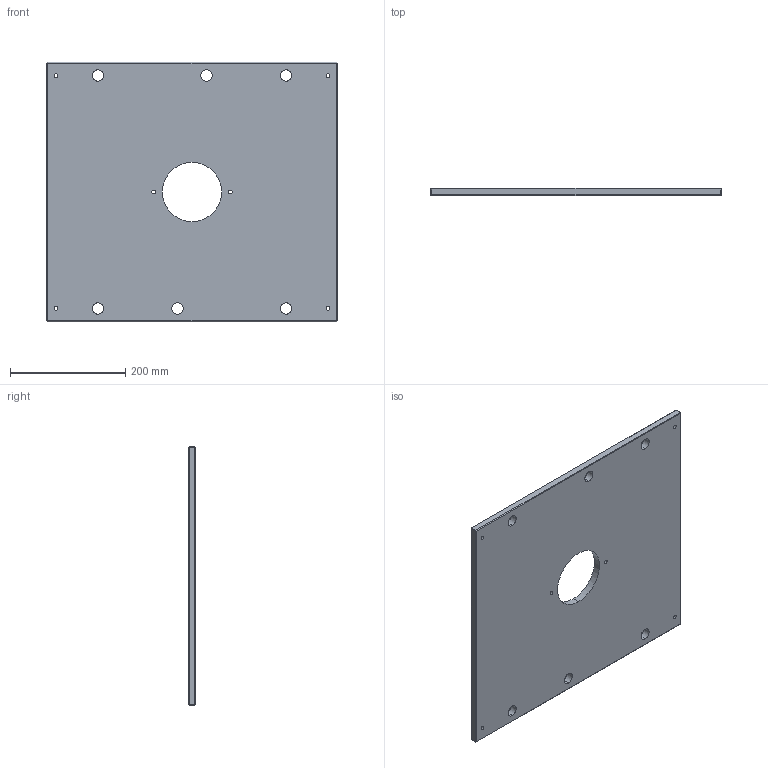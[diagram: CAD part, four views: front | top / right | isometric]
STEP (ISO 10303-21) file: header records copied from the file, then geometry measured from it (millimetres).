
FILE_DESCRIPTION (( 'STEP AP214' ), '1' );
FILE_NAME ('ME-0619-CH-1820-B.STEP', '2020-02-13T09:42:08', ( '' ), ( '' ), 'SwSTEP 2.0', 'SolidWorks 2018', '' );
FILE_SCHEMA (( 'AUTOMOTIVE_DESIGN' ));
Length unit declared in the file: inch
Products named in the file (1): ME-0619-CH-1820-B
Bounding box: 504.82 x 12.7 x 450.85 mm (x, y, z)
Volume: 2753619.1 mm3; surface area: 466064.3 mm2
Topology: 1 solids, 1 shells, 64 faces, 150 edges, 88 vertices
Faces by surface type: cylinder 26, plane 26, cone 12
Entity records: 1902 total; most frequent: DIRECTION 344, CARTESIAN_POINT 303, ORIENTED_EDGE 300, EDGE_CURVE 150, AXIS2_PLACEMENT_3D 129, EDGE_LOOP 90, VERTEX_POINT 88, LINE 86
